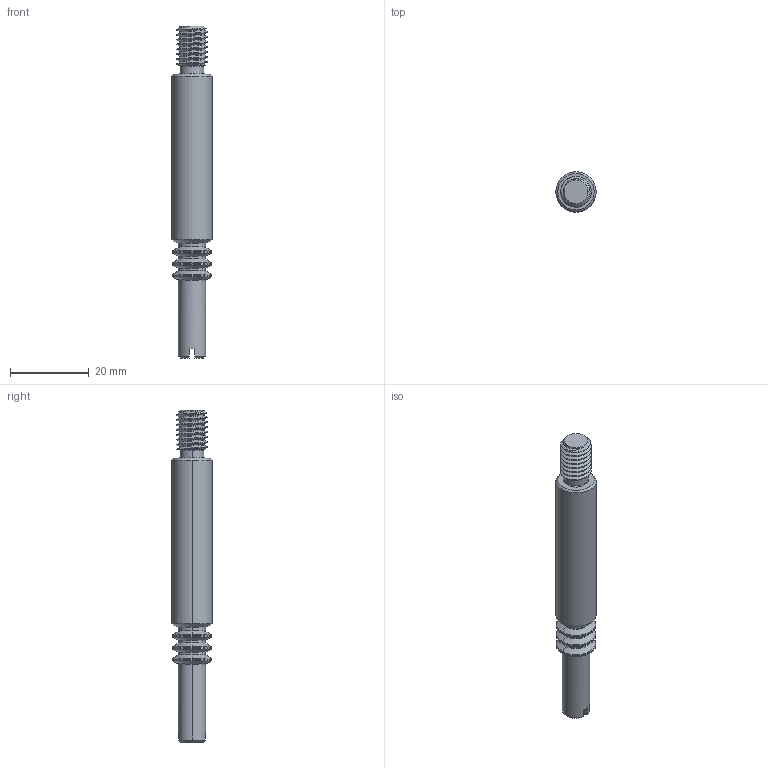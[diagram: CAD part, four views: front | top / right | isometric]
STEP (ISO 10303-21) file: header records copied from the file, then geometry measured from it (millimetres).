
FILE_DESCRIPTION (( 'STEP AP203' ), '1' );
FILE_NAME ('11.03.625 84mm Dowel Fuerte ø 11mm x 72mm + M8 x 12mm Steel BZP.STEP', '2023-02-22T10:03:43', ( '' ), ( '' ), 'SwSTEP 2.0', 'SolidWorks 2022', '' );
FILE_SCHEMA (( 'CONFIG_CONTROL_DESIGN' ));
Length unit declared in the file: millimetre
Products named in the file (1): 11.03.625 84mm Dowel Fuerte ø 11mm x 72mm + M8 x 12mm Steel BZP
Bounding box: 10.2 x 10.2 x 84.2 mm (x, y, z)
Surface area: 2739.9 mm2 (no closed solid volume)
Topology: 0 solids, 1 shells, 115 faces, 273 edges, 161 vertices
Faces by surface type: cylinder 51, torus 32, cone 22, plane 8, bspline 2
Entity records: 6291 total; most frequent: CARTESIAN_POINT 3705, ORIENTED_EDGE 546, DIRECTION 545, EDGE_CURVE 273, AXIS2_PLACEMENT_3D 234, VERTEX_POINT 161, CIRCLE 120, EDGE_LOOP 116
